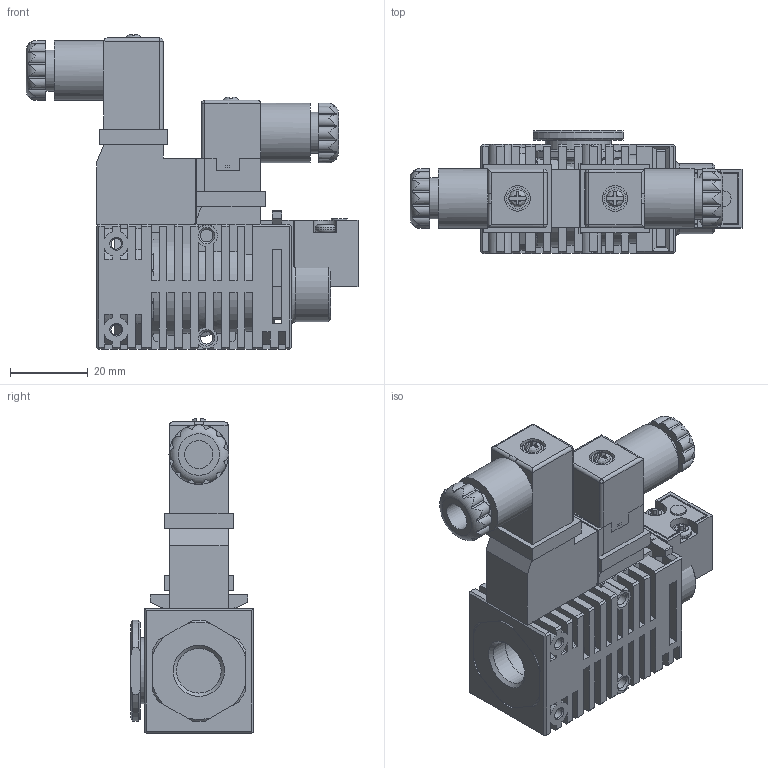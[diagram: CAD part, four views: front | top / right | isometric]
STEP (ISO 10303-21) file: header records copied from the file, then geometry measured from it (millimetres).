
FILE_DESCRIPTION( ( 'Unknown' ), '1' );
FILE_NAME( 'D:/New products_SE/VMS14/3D/VMS14M-3-1.stp', 'Unknown', ( 'Unknown' ), ( 'Unknown' ), 'PSStep 10.0', 'Unknown', ' ' );
FILE_SCHEMA( ( 'AUTOMOTIVE_DESIGN { 1 0 10303 214 1 1 1 1 }' ) );
Length unit declared in the file: millimetre
Products named in the file (7): Assem1; Housing(STEP¿ë; DIN SOLENOID; DIN Terminal_2; End cap-connector type; Stop ring; End cap-rear-14F
Bounding box: 85.14 x 31.5 x 80.6 mm (x, y, z)
Volume: 122660.1 mm3; surface area: 71611 mm2
Topology: 12 solids, 12 shells, 1840 faces, 4896 edges, 3228 vertices
Faces by surface type: plane 1174, cylinder 496, cone 94, torus 68, bspline 4, sphere 4
Full cylindrical faces by diameter (mm): 1 x8, 1.1 x4, 1.4 x4, 1.5 x4, 2.5 x4, 2.7 x8, 2.8 x2, 3 x4, 3.2 x4, 3.4 x2, 4 x2, 4.9 x4, 5.2 x4, 5.5 x2, 6.535 x2, 7.2 x2, 8 x4, 10 x4, 10.5 x2, 11.445 x4, 11.5 x4, 11.8 x2, 12 x4, 13 x2, 14.3 x2, 15 x2, 15.3 x2, 16 x2, 17 x4, 18 x4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
Entity records: 35946 total; most frequent: CARTESIAN_POINT 5856, ORIENTED_EDGE 4630, DIRECTION 4563, EDGE_CURVE 2315, LINE 1609, VECTOR 1609, VERTEX_POINT 1595, AXIS2_PLACEMENT_3D 1477
